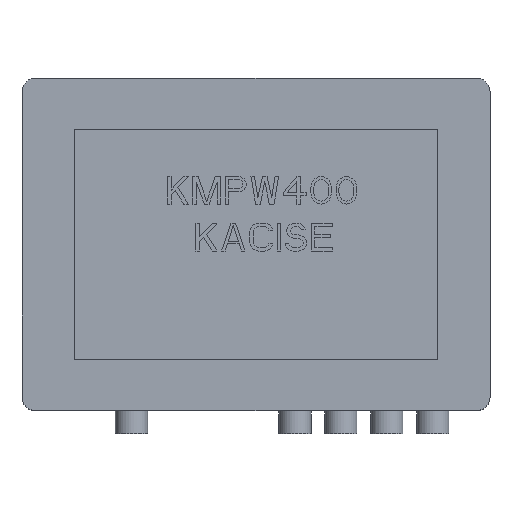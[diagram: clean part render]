
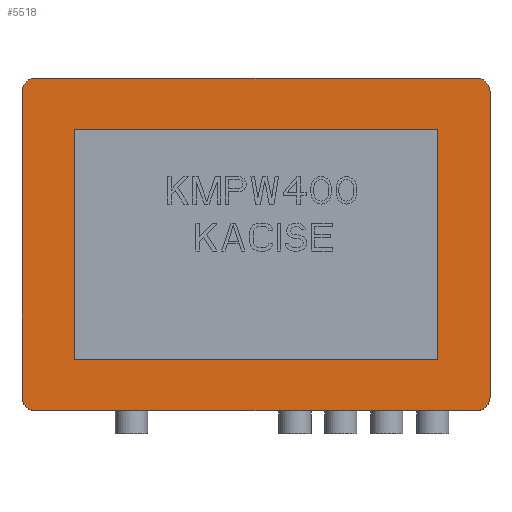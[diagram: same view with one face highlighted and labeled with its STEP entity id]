
A CAD part, top view. The second image highlights one B-rep face of the part: STEP entity #5518.
In plain terms, the highlighted planar face has unit normal (0, 0, 1).
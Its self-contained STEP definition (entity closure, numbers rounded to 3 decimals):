
#1=CARTESIAN_POINT('',(-96.,66.5,0.));
#2=DIRECTION('',(0.,0.,1.));
#3=DIRECTION('',(0.,1.,0.));
#4=AXIS2_PLACEMENT_3D('',#1,#2,#3);
#6=DIRECTION('',(1.,0.,0.));
#7=VECTOR('',#6,192.);
#8=CARTESIAN_POINT('',(-96.,72.5,0.));
#9=LINE('',#8,#7);
#10=CARTESIAN_POINT('',(96.,66.5,0.));
#11=DIRECTION('',(0.,0.,1.));
#12=DIRECTION('',(1.,0.,0.));
#13=AXIS2_PLACEMENT_3D('',#10,#11,#12);
#15=DIRECTION('',(0.,-1.,0.));
#16=VECTOR('',#15,133.);
#17=CARTESIAN_POINT('',(102.,66.5,0.));
#18=LINE('',#17,#16);
#19=CARTESIAN_POINT('',(96.,-66.5,0.));
#20=DIRECTION('',(0.,0.,1.));
#21=DIRECTION('',(0.,-1.,0.));
#22=AXIS2_PLACEMENT_3D('',#19,#20,#21);
#24=DIRECTION('',(-1.,0.,0.));
#25=VECTOR('',#24,192.);
#26=CARTESIAN_POINT('',(96.,-72.5,0.));
#27=LINE('',#26,#25);
#28=CARTESIAN_POINT('',(-96.,-66.5,0.));
#29=DIRECTION('',(0.,0.,1.));
#30=DIRECTION('',(-1.,0.,0.));
#31=AXIS2_PLACEMENT_3D('',#28,#29,#30);
#33=DIRECTION('',(0.,1.,0.));
#34=VECTOR('',#33,133.);
#35=CARTESIAN_POINT('',(-102.,-66.5,0.));
#36=LINE('',#35,#34);
#37=DIRECTION('',(1.,0.,0.));
#38=VECTOR('',#37,158.598);
#39=CARTESIAN_POINT('',(-79.299,-50.,0.));
#40=LINE('',#39,#38);
#41=DIRECTION('',(0.,1.,0.));
#42=VECTOR('',#41,100.);
#43=CARTESIAN_POINT('',(79.299,-50.,0.));
#44=LINE('',#43,#42);
#45=DIRECTION('',(-1.,0.,0.));
#46=VECTOR('',#45,158.598);
#47=CARTESIAN_POINT('',(79.299,50.,0.));
#48=LINE('',#47,#46);
#49=DIRECTION('',(0.,-1.,0.));
#50=VECTOR('',#49,100.);
#51=CARTESIAN_POINT('',(-79.299,50.,0.));
#52=LINE('',#51,#50);
#4129=CARTESIAN_POINT('',(-96.,72.5,0.));
#4130=CARTESIAN_POINT('',(-102.,66.5,0.));
#4131=VERTEX_POINT('',#4129);
#4132=VERTEX_POINT('',#4130);
#4137=CARTESIAN_POINT('',(-102.,-66.5,0.));
#4138=CARTESIAN_POINT('',(-96.,-72.5,0.));
#4139=VERTEX_POINT('',#4137);
#4140=VERTEX_POINT('',#4138);
#4145=CARTESIAN_POINT('',(102.,66.5,0.));
#4146=CARTESIAN_POINT('',(96.,72.5,0.));
#4147=VERTEX_POINT('',#4145);
#4148=VERTEX_POINT('',#4146);
#4153=CARTESIAN_POINT('',(96.,-72.5,0.));
#4154=CARTESIAN_POINT('',(102.,-66.5,0.));
#4155=VERTEX_POINT('',#4153);
#4156=VERTEX_POINT('',#4154);
#4249=CARTESIAN_POINT('',(-79.299,-50.,0.));
#4250=CARTESIAN_POINT('',(79.299,-50.,0.));
#4251=VERTEX_POINT('',#4249);
#4252=VERTEX_POINT('',#4250);
#4253=CARTESIAN_POINT('',(79.299,50.,0.));
#4254=VERTEX_POINT('',#4253);
#4255=CARTESIAN_POINT('',(-79.299,50.,0.));
#4256=VERTEX_POINT('',#4255);
#5485=CARTESIAN_POINT('',(0.,0.,0.));
#5486=DIRECTION('',(0.,0.,1.));
#5487=DIRECTION('',(1.,0.,0.));
#5488=AXIS2_PLACEMENT_3D('',#5485,#5486,#5487);
#5489=PLANE('',#5488);
#5491=ORIENTED_EDGE('',*,*,#5490,.F.);
#5493=ORIENTED_EDGE('',*,*,#5492,.T.);
#5495=ORIENTED_EDGE('',*,*,#5494,.F.);
#5497=ORIENTED_EDGE('',*,*,#5496,.T.);
#5499=ORIENTED_EDGE('',*,*,#5498,.F.);
#5501=ORIENTED_EDGE('',*,*,#5500,.T.);
#5503=ORIENTED_EDGE('',*,*,#5502,.F.);
#5505=ORIENTED_EDGE('',*,*,#5504,.T.);
#5506=EDGE_LOOP('',(#5491,#5493,#5495,#5497,#5499,#5501,#5503,#5505));
#5507=FACE_OUTER_BOUND('',#5506,.F.);
#5509=ORIENTED_EDGE('',*,*,#5508,.T.);
#5511=ORIENTED_EDGE('',*,*,#5510,.T.);
#5513=ORIENTED_EDGE('',*,*,#5512,.T.);
#5515=ORIENTED_EDGE('',*,*,#5514,.T.);
#5516=EDGE_LOOP('',(#5509,#5511,#5513,#5515));
#5517=FACE_BOUND('',#5516,.F.);
#5518=ADVANCED_FACE('',(#5507,#5517),#5489,.T.);
#5=CIRCLE('',#4,6.);
#14=CIRCLE('',#13,6.);
#23=CIRCLE('',#22,6.);
#32=CIRCLE('',#31,6.);
#5490=EDGE_CURVE('',#4131,#4132,#5,.T.);
#5492=EDGE_CURVE('',#4131,#4148,#9,.T.);
#5494=EDGE_CURVE('',#4147,#4148,#14,.T.);
#5496=EDGE_CURVE('',#4147,#4156,#18,.T.);
#5498=EDGE_CURVE('',#4155,#4156,#23,.T.);
#5500=EDGE_CURVE('',#4155,#4140,#27,.T.);
#5502=EDGE_CURVE('',#4139,#4140,#32,.T.);
#5504=EDGE_CURVE('',#4139,#4132,#36,.T.);
#5508=EDGE_CURVE('',#4251,#4252,#40,.T.);
#5510=EDGE_CURVE('',#4252,#4254,#44,.T.);
#5512=EDGE_CURVE('',#4254,#4256,#48,.T.);
#5514=EDGE_CURVE('',#4256,#4251,#52,.T.);
